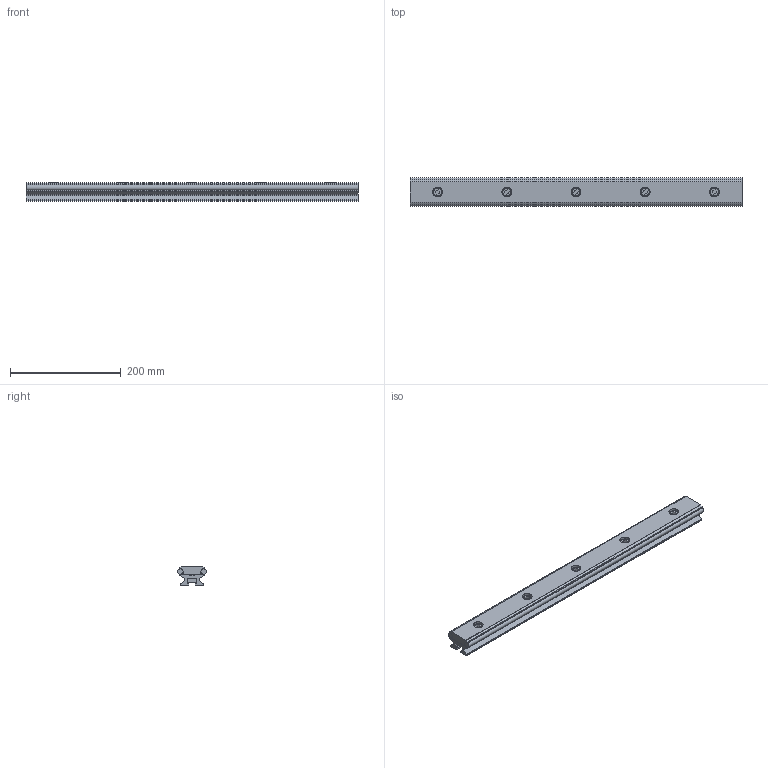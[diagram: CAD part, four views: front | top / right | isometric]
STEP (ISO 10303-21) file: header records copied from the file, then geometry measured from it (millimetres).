
FILE_DESCRIPTION(/* description */ ('Unknown'),/* implementation_level */ '2;1');
FILE_NAME(/* name */ 'HLFS52_600_Lang_mit_Bohrungen',/* time_stamp */ '2022-01-26T16:45:02+01:00',/* author */ ('Unknown'),/* organization */ ('Unknown'),/* preprocessor_version */ 'ST-DEVELOPER v16.7',/* originating_system */ 'Solid Edge',/* authorisation */ 'Unknown');
FILE_SCHEMA (('AUTOMOTIVE_DESIGN {1 0 10303 214 3 1 1}'));
Length unit declared in the file: millimetre
Products named in the file (6): HLFS52_600_Lang_mit_Bohrungen; Profil_oben-600_Lang-mit_Bohrungen_20220121; Welle_Dm_10-600_lang; Profil_unten-600_Lang_20210212; din_7984_m_10x20_20220121; DIN_557_Vierkantmutter_M10_20220121
Assembly tree (14 placements, depth 2):
  HLFS52_600_Lang_mit_Bohrungen
    Profil_oben-600_Lang-mit_Bohrungen_20220121
    Welle_Dm_10-600_lang  x2
    Profil_unten-600_Lang_20210212
    din_7984_m_10x20_20220121  x5
    DIN_557_Vierkantmutter_M10_20220121  x5
Bounding box: 600 x 52 x 34.3 mm (x, y, z)
Volume: 702635.4 mm3; surface area: 232834 mm2
Topology: 14 solids, 14 shells, 269 faces, 663 edges, 437 vertices
Faces by surface type: plane 153, cylinder 101, cone 10, torus 5
Full cylindrical faces by diameter (mm): 8.376 x10, 10 x12, 11 x5, 16 x5, 18 x5
Entity records: 5504 total; most frequent: CARTESIAN_POINT 1049, DIRECTION 890, ORIENTED_EDGE 862, EDGE_CURVE 431, AXIS2_PLACEMENT_3D 318, VERTEX_POINT 297, LINE 254, VECTOR 254
